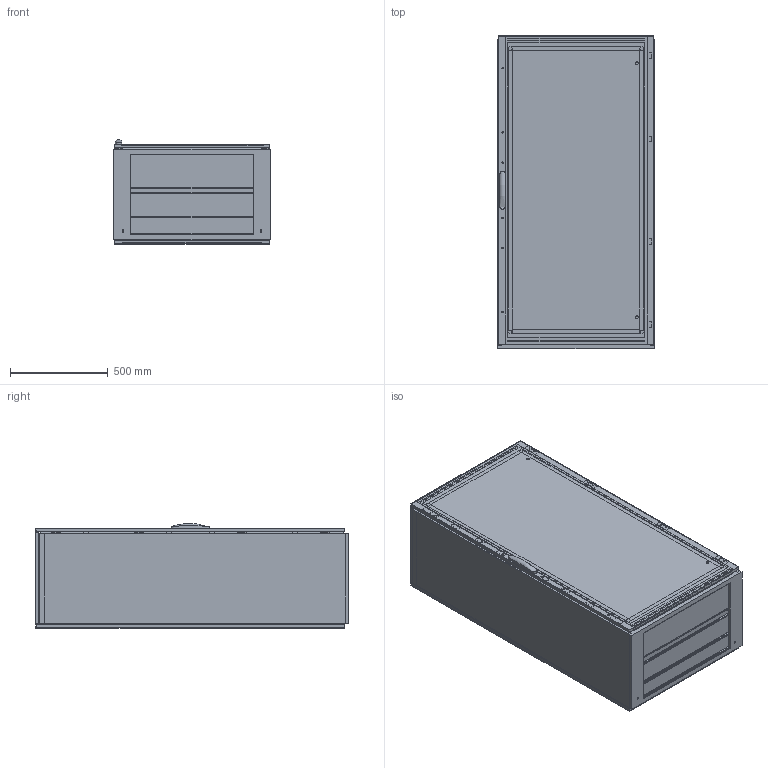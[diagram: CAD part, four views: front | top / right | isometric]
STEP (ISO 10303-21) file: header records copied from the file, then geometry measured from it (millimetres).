
FILE_DESCRIPTION(/* description */ ('STEP AP203'),/* implementation_level */ '2;1');
FILE_NAME(/* name */ 'MKS16085R5(0)',/* time_stamp */ '2024-02-22T09:36:14+01:00',/* author */ ('License CC BY-ND 4.0'),/* organization */ ('CADENAS'),/* preprocessor_version */ 'ST-DEVELOPER v19.3',/* originating_system */ 'PARTsolutions',/* authorisation */ ' ');
FILE_SCHEMA (('CONFIG_CONTROL_DESIGN'));
Length unit declared in the file: millimetre
Products named in the file (19): MKS16085R5(0); MKS16085R5(0)_Frame; CRPK08(0)_Rear Panel Mounting Kit; CRP1608R5(0)_Rear Panel; DNMK02(0)_Hinge Right; DN1608R5(0)_Plain door; LSSDXXXX(0)_Lock; LSSD1600(0)_Espagnolette Top; LSSD1600(0)_Espagnolette Bottom; DNMK01(0)_Rod catches; MPA06(0)_Mounting Plate Brackets 1; MP1608(0)_P1; MPA06(0)_Mounting Plate Brackets 2; MPA06(0)_Mounting Plate Brackets 3; MPA06(0)_Mounting Plate Brackets 4; CCR085R5(0)_MKD Roof plate; CBPW800D200(0)_Bottom Plate 3; CBP080(0)_Bottom Plate 1; CBP080(0)_Bottom Plate 2
Assembly tree (31 placements, depth 2):
  MKS16085R5(0)
    MKS16085R5(0)_Frame
    CRPK08(0)_Rear Panel Mounting Kit  x8
    CRP1608R5(0)_Rear Panel
    DNMK02(0)_Hinge Right  x4
    DN1608R5(0)_Plain door
    LSSDXXXX(0)_Lock
    LSSD1600(0)_Espagnolette Top
    LSSD1600(0)_Espagnolette Bottom
    DNMK01(0)_Rod catches  x4
    MPA06(0)_Mounting Plate Brackets 1
    MP1608(0)_P1
    MPA06(0)_Mounting Plate Brackets 2
    MPA06(0)_Mounting Plate Brackets 3
    MPA06(0)_Mounting Plate Brackets 4
    CCR085R5(0)_MKD Roof plate
    CBPW800D200(0)_Bottom Plate 3
    CBP080(0)_Bottom Plate 1
    CBP080(0)_Bottom Plate 2
Bounding box: 800 x 1605 x 534.85 mm (x, y, z)
Volume: 23826855.4 mm3; surface area: 14614452.5 mm2
Topology: 31 solids, 31 shells, 1333 faces, 3465 edges, 2287 vertices
Faces by surface type: plane 1152, cylinder 122, cone 58, torus 1
Full cylindrical faces by diameter (mm): 2.55 x2, 5 x18, 5.2 x2, 6 x6, 7 x6, 7.4 x4, 8 x18, 9 x2, 10 x8, 13 x2, 14 x4
Entity records: 31714 total; most frequent: CARTESIAN_POINT 5489, ORIENTED_EDGE 5120, DIRECTION 4914, EDGE_CURVE 2560, LINE 2276, VECTOR 2276, VERTEX_POINT 1744, AXIS2_PLACEMENT_3D 1319
